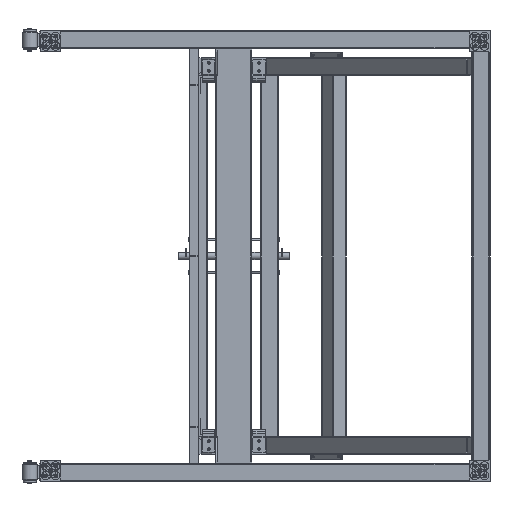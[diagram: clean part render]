
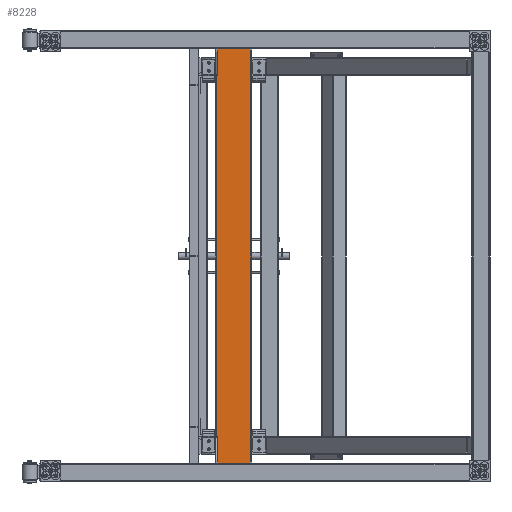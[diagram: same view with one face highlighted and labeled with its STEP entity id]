
A CAD part, front view. The second image highlights one B-rep face of the part: STEP entity #8228.
In plain terms, the highlighted planar face has unit normal (0, -1, 0).
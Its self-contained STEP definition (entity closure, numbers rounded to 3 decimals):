
#2759=LINE('',#41748,#4806);
#2760=LINE('',#41751,#4807);
#2761=LINE('',#41753,#4808);
#2762=LINE('',#41755,#4809);
#4806=VECTOR('',#34030,1.);
#4807=VECTOR('',#34031,1.);
#4808=VECTOR('',#34032,1.);
#4809=VECTOR('',#34033,1.);
#6985=FACE_OUTER_BOUND('',#12860,.T.);
#8228=ADVANCED_FACE('',(#6985),#9709,.T.);
#9709=PLANE('',#29447);
#12860=EDGE_LOOP('',(#16967,#16968,#16969,#16970));
#16967=ORIENTED_EDGE('',*,*,#25233,.T.);
#16968=ORIENTED_EDGE('',*,*,#25234,.F.);
#16969=ORIENTED_EDGE('',*,*,#25235,.T.);
#16970=ORIENTED_EDGE('',*,*,#25236,.T.);
#22369=VERTEX_POINT('',#41749);
#22370=VERTEX_POINT('',#41750);
#22371=VERTEX_POINT('',#41752);
#22372=VERTEX_POINT('',#41754);
#25233=EDGE_CURVE('',#22369,#22370,#2759,.T.);
#25234=EDGE_CURVE('',#22371,#22370,#2760,.T.);
#25235=EDGE_CURVE('',#22371,#22372,#2761,.T.);
#25236=EDGE_CURVE('',#22372,#22369,#2762,.T.);
#29447=AXIS2_PLACEMENT_3D('',#41756,#34034,#34035);
#34030=DIRECTION('',(0.,0.,-1.));
#34031=DIRECTION('',(-1.,0.,0.));
#34032=DIRECTION('',(0.,0.,1.));
#34033=DIRECTION('',(-1.,0.,0.));
#34034=DIRECTION('',(0.,-1.,0.));
#34035=DIRECTION('',(0.,0.,1.));
#41748=CARTESIAN_POINT('',(-94.,200.,2310.));
#41749=CARTESIAN_POINT('',(-94.,200.,2150.));
#41750=CARTESIAN_POINT('',(-94.,200.,-150.));
#41751=CARTESIAN_POINT('',(100.,200.,-150.));
#41752=CARTESIAN_POINT('',(94.,200.,-150.));
#41753=CARTESIAN_POINT('',(94.,200.,2310.));
#41754=CARTESIAN_POINT('',(94.,200.,2150.));
#41755=CARTESIAN_POINT('',(100.,200.,2150.));
#41756=CARTESIAN_POINT('',(100.,200.,2310.));
